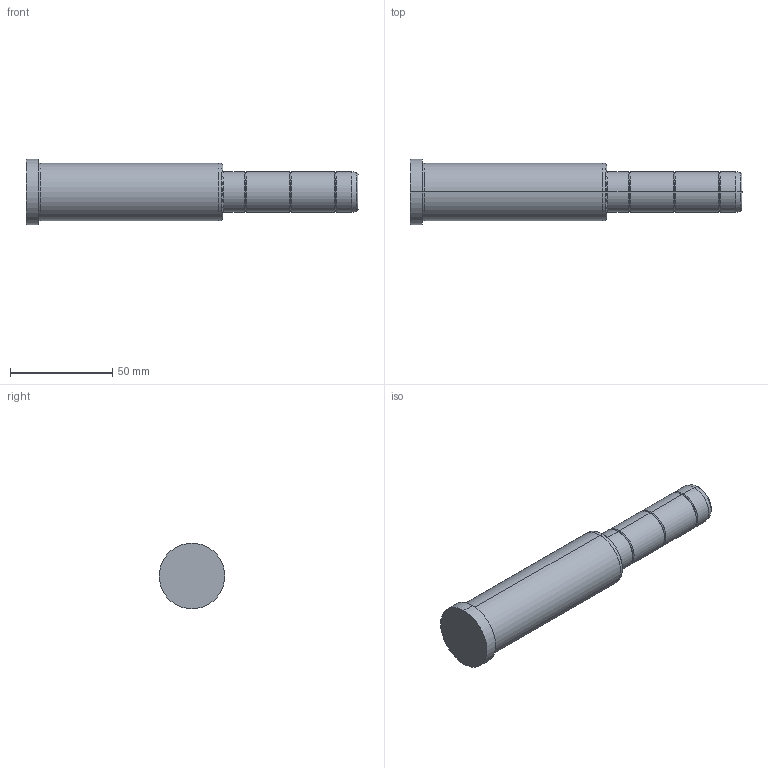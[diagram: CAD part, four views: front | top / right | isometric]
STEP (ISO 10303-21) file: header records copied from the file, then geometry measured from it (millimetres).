
FILE_DESCRIPTION( ( 'STEP AP203' ), '1' );
FILE_NAME( 'C:/Projects/D02 - 20x96x66.step', '2003-01-04T13:46:13', ( ' ' ), ( ' ' ), 'XStep 1.0', ' ', ' ' );
FILE_SCHEMA( ( 'CONFIG_CONTROL_DESIGN' ) );
Length unit declared in the file: metre
Products named in the file (1): 1
Bounding box: 162 x 32 x 32 mm (x, y, z)
Volume: 80894.2 mm3; surface area: 14278.3 mm2
Topology: 1 solids, 1 shells, 42 faces, 82 edges, 46 vertices
Faces by surface type: bspline 22, revolution 20
Entity records: 1325 total; most frequent: CARTESIAN_POINT 517, ORIENTED_EDGE 164, DIRECTION 134, EDGE_CURVE 82, AXIS2_PLACEMENT_3D 47, EDGE_LOOP 46, VERTEX_POINT 46, CIRCLE 46
